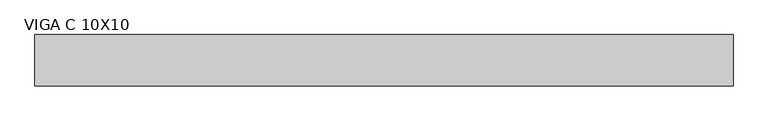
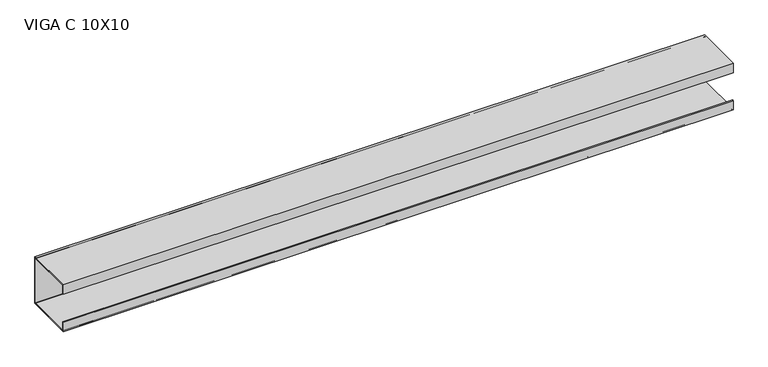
"""IFC4 building model written with IfcOpenShell, lengths in millimetres: beam geometry, VIGA PERFIL C AÇO : VIGA C 10X10."""

import ifcopenshell
import ifcopenshell.guid

model = None  # the IFC model being written
_history = None  # IfcOwnerHistory: only IFC2X3 demands one
_inside = {}  # id of a spatial element -> (the spatial element, [elements in it])
_under = {}  # id of a project, library or spatial element -> (it, [spatial elements below it])
_declared = {}  # id of a project -> (the project, [libraries it declares])
_typed = {}  # id of a type object -> (the type object, [elements of that type])
_made_of = {}  # id of a material, layer set ... -> (it, [elements and type objects made of it])


def new_model(schema):
    """Start an empty IFC model of exactly this schema.

    Asked for "IFC4X3", IfcOpenShell would pick the latest addendum, in which some entities
    have other attributes; the version numbers below select the first issue.
    IFC2X3 requires an IfcOwnerHistory on every rooted entity: one is made here for all.
    """
    global model, _history
    if schema == "IFC4X3":
        model = ifcopenshell.file(schema_version=(4, 3, 0, 0))
    else:
        model = ifcopenshell.file(schema=schema)
    _inside.clear()
    _under.clear()
    _declared.clear()
    _typed.clear()
    _made_of.clear()
    _history = None
    if model.schema == "IFC2X3":
        org = make("IfcOrganization", Name="unknown")
        user = make(
            "IfcPersonAndOrganization",
            ThePerson=make("IfcPerson", FamilyName="unknown"),
            TheOrganization=org,
        )
        app = make(
            "IfcApplication",
            ApplicationDeveloper=org,
            Version="unknown",
            ApplicationFullName="unknown",
            ApplicationIdentifier="unknown",
        )
        _history = make(
            "IfcOwnerHistory",
            OwningUser=user,
            OwningApplication=app,
            ChangeAction="ADDED",
            CreationDate=0,
        )
    return model


def make(cls, **values):
    """One entity of the class cls with the attributes given. An attribute that is None is left unset."""
    return model.create_entity(
        cls, **{name: value for name, value in values.items() if value is not None}
    )


def rooted(cls, **values):
    """An entity with a GlobalId (a new one), such as an element, a storey or a relation."""
    return make(cls, GlobalId=ifcopenshell.guid.new(), OwnerHistory=_history, **values)


def si_unit(unit_type, name, prefix=None):
    """IfcSIUnit, for example si_unit("LENGTHUNIT", "METRE", prefix="MILLI")."""
    return make("IfcSIUnit", UnitType=unit_type, Prefix=prefix, Name=name)


def assignment(units):
    """IfcUnitAssignment: the units of a project."""
    return None if units is None else make("IfcUnitAssignment", Units=units)


def point(xyz):
    """IfcCartesianPoint."""
    return None if xyz is None else make("IfcCartesianPoint", Coordinates=xyz)


def direction(xyz):
    """IfcDirection."""
    return None if xyz is None else make("IfcDirection", DirectionRatios=xyz)


def frame(location, z_axis=None, x_axis=None):
    """IfcAxis2Placement3D, a coordinate frame: its origin and axes. An axis left out is left unset."""
    return make(
        "IfcAxis2Placement3D",
        Location=point(location),
        Axis=direction(z_axis),
        RefDirection=direction(x_axis),
    )


def frame_2d(location, x_axis=None):
    """IfcAxis2Placement2D, a coordinate frame in the plane: its origin and x axis."""
    return make(
        "IfcAxis2Placement2D", Location=point(location), RefDirection=direction(x_axis)
    )


def origin():
    """The frame at (0, 0, 0) with its axes left unset."""
    return frame((0.0, 0.0, 0.0))


def place(relative_to, where):
    """IfcLocalPlacement: puts the frame where relative to a parent placement (None: the world)."""
    return make(
        "IfcLocalPlacement", PlacementRelTo=relative_to, RelativePlacement=where
    )


def context(
    kind, dimensions, precision=None, world=None, true_north=None, identifier=None
):
    """IfcGeometricRepresentationContext, for example the 3D "Model" context."""
    return make(
        "IfcGeometricRepresentationContext",
        ContextIdentifier=identifier,
        ContextType=kind,
        CoordinateSpaceDimension=dimensions,
        Precision=precision,
        WorldCoordinateSystem=world,
        TrueNorth=true_north,
    )


def project(units=None, contexts=None):
    """IfcProject with its units and contexts."""
    return rooted(
        "IfcProject",
        Name="project",
        RepresentationContexts=contexts,
        UnitsInContext=assignment(units),
    )


def spatial(cls, under=None, at=None, **own):
    """A site, building, storey or space (cls), placed at a placement, below another one or the project."""
    s = rooted(cls, ObjectPlacement=at, **own)
    if under is not None:
        _under.setdefault(under.id(), (under, []))[1].append(s)
    return s


def polyline(points):
    """IfcPolyline through the points."""
    return make("IfcPolyline", Points=[point(p) for p in points])


def circle_curve(where, radius):
    """IfcCircle in the frame where."""
    return make("IfcCircle", Position=where, Radius=radius)


def trimmed(basis, trim1, trim2, sense, master):
    """IfcTrimmedCurve: the piece of a basis curve between two trims."""
    return make(
        "IfcTrimmedCurve",
        BasisCurve=basis,
        Trim1=trim1,
        Trim2=trim2,
        SenseAgreement=sense,
        MasterRepresentation=master,
    )


def segment(curve, same_sense, transition):
    """IfcCompositeCurveSegment."""
    return make(
        "IfcCompositeCurveSegment",
        Transition=transition,
        SameSense=same_sense,
        ParentCurve=curve,
    )


def composite_curve(segments, self_intersect=None):
    """IfcCompositeCurve: segments joined end to end."""
    return make("IfcCompositeCurve", Segments=segments, SelfIntersect=self_intersect)


def outline(outer, holes=None, kind="AREA"):
    """IfcArbitraryClosedProfileDef: a profile drawn as a closed curve; with holes, ...WithVoids."""
    if holes is None:
        return make("IfcArbitraryClosedProfileDef", ProfileType=kind, OuterCurve=outer)
    return make(
        "IfcArbitraryProfileDefWithVoids",
        ProfileType=kind,
        OuterCurve=outer,
        InnerCurves=holes,
    )


def extrude(swept, where, along, depth):
    """IfcExtrudedAreaSolid: the profile swept, set in the frame where, extruded along a direction by depth."""
    return make(
        "IfcExtrudedAreaSolid",
        SweptArea=swept,
        Position=where,
        ExtrudedDirection=direction(along),
        Depth=depth,
    )


def shape(context_of_items, identifier, shape_type, items):
    """IfcShapeRepresentation: the items that make up one representation, for example the "Body"."""
    return make(
        "IfcShapeRepresentation",
        ContextOfItems=context_of_items,
        RepresentationIdentifier=identifier,
        RepresentationType=shape_type,
        Items=items,
    )


def source(mapping_origin, context_of_items, identifier, shape_type, items):
    """IfcRepresentationMap: a shape defined once, which mapped items show again and again."""
    return make(
        "IfcRepresentationMap",
        MappingOrigin=mapping_origin,
        MappedRepresentation=shape(context_of_items, identifier, shape_type, items),
    )


def transform(
    local_origin,
    x_axis=None,
    y_axis=None,
    z_axis=None,
    scale=None,
    scale2=None,
    scale3=None,
    uniform=True,
):
    """IfcCartesianTransformationOperator3D, or its non-uniform kind. x_axis, y_axis, z_axis: its Axis1, 2, 3."""
    if uniform:
        return make(
            "IfcCartesianTransformationOperator3D",
            Axis1=direction(x_axis),
            Axis2=direction(y_axis),
            LocalOrigin=point(local_origin),
            Scale=scale,
            Axis3=direction(z_axis),
        )
    return make(
        "IfcCartesianTransformationOperator3DnonUniform",
        Axis1=direction(x_axis),
        Axis2=direction(y_axis),
        LocalOrigin=point(local_origin),
        Scale=scale,
        Axis3=direction(z_axis),
        Scale2=scale2,
        Scale3=scale3,
    )


def mapped(mapping_source, mapping_target):
    """IfcMappedItem: shows the shape of a source again, moved by a transform."""
    return make(
        "IfcMappedItem", MappingSource=mapping_source, MappingTarget=mapping_target
    )


def made_of(thing, what):
    """Note that an element or type object is made of a material, layer set ...; save() writes the relation."""
    if what is not None:
        _made_of.setdefault(what.id(), (what, []))[1].append(thing)
    return thing


def element(
    cls,
    number,
    at=None,
    inside=None,
    cuts=None,
    type_object=None,
    material=None,
    context=None,
    identifier="Body",
    shape_type=None,
    held_by="IfcProductDefinitionShape",
    body=None,
    shapes=None,
    **own,
):
    """One element of the class cls, such as IfcWall. Its Tag is "e" and its number.

    at: its placement. inside: the storey or other place that contains it. cuts: it is an
    opening in that element (IfcRelVoidsElement). A single representation is given by context,
    identifier, shape_type and body (its items); several are given by shapes. held_by: the class
    of the entity that holds the representations. save() writes the other relations.
    """
    e = rooted(cls, Tag="e%d" % number, ObjectPlacement=at, **own)
    if body is not None:
        shapes = [shape(context, identifier, shape_type, body)]
    if shapes is not None:
        e.Representation = make(held_by, Representations=shapes)
    if inside is not None:
        _inside.setdefault(inside.id(), (inside, []))[1].append(e)
    if cuts is not None:
        rooted(
            "IfcRelVoidsElement", RelatingBuildingElement=cuts, RelatedOpeningElement=e
        )
    if type_object is not None:
        _typed.setdefault(type_object.id(), (type_object, []))[1].append(e)
    return made_of(e, material)


def aggregate(whole, parts):
    """IfcRelAggregates: a whole, such as a stair, and the parts it consists of."""
    return rooted("IfcRelAggregates", RelatingObject=whole, RelatedObjects=parts)


def save(model, path):
    """Write the relations noted so far, then the file.

    IfcRelAggregates (storeys below a building ...), IfcRelContainedInSpatialStructure (elements
    in a storey), IfcRelDefinesByType, IfcRelAssociatesMaterial and IfcRelDeclares: one each for
    every whole, place, type object, material and project.
    """
    for whole, parts in _under.values():
        aggregate(whole, parts)
    for where, things in _inside.values():
        rooted(
            "IfcRelContainedInSpatialStructure",
            RelatedElements=things,
            RelatingStructure=where,
        )
    for kind, things in _typed.values():
        rooted("IfcRelDefinesByType", RelatedObjects=things, RelatingType=kind)
    for what, things in _made_of.values():
        rooted("IfcRelAssociatesMaterial", RelatedObjects=things, RelatingMaterial=what)
    for by, libraries in _declared.values():
        rooted("IfcRelDeclares", RelatingContext=by, RelatedDefinitions=libraries)
    model.write(path)


def viga_c_10x10_49eaffbf(model_context):
    return source(origin(), model_context, "Body", "SweptSolid", [
        extrude(outline(polyline([(9.2, -50.0), (-90.8, -50.0), (-90.8, -30.0), (-88.9, -30.0), (-88.9, -48.1), (7.3, -48.1), (7.3, 48.1), (-88.9, 48.1), (-88.9, 30.0), (-90.8, 30.0), (-90.8, 50.0), (9.2, 50.0), (9.2, -50.0)])), frame((-707.0, 0.0, 0.0), z_axis=(1.0, 0.0, 0.0), x_axis=(0.0, 1.0, 0.0)), (0.0, 0.0, 1.0), 1358.0),
        extrude(outline(composite_curve([segment(trimmed(circle_curve(frame_2d((5.4, -46.2)), 3.8), [point((9.2, -46.2))], [point((5.4, -50.0))], False, "CARTESIAN"), True, "CONTINUOUS"), segment(polyline([(5.4, -50.0), (-87.0, -50.0)]), True, "CONTINUOUS"), segment(trimmed(circle_curve(frame_2d((-87.0, -46.2)), 3.8), [point((-87.0, -50.0))], [point((-90.8, -46.2))], False, "CARTESIAN"), True, "CONTINUOUS"), segment(polyline([(-90.8, -46.2), (-90.8, -30.0), (-88.9, -30.0), (-88.9, -46.2)]), True, "CONTINUOUS"), segment(trimmed(circle_curve(frame_2d((-87.0, -46.2)), 1.9), [point((-88.9, -46.2))], [point((-87.0, -48.1))], True, "CARTESIAN"), True, "CONTINUOUS"), segment(polyline([(-87.0, -48.1), (5.4, -48.1)]), True, "CONTINUOUS"), segment(trimmed(circle_curve(frame_2d((5.4, -46.2)), 1.9), [point((5.4, -48.1))], [point((7.3, -46.2))], True, "CARTESIAN"), True, "CONTINUOUS"), segment(polyline([(7.3, -46.2), (7.3, 46.2)]), True, "CONTINUOUS"), segment(trimmed(circle_curve(frame_2d((5.4, 46.2)), 1.9), [point((7.3, 46.2))], [point((5.4, 48.1))], True, "CARTESIAN"), True, "CONTINUOUS"), segment(polyline([(5.4, 48.1), (-87.0, 48.1)]), True, "CONTINUOUS"), segment(trimmed(circle_curve(frame_2d((-87.0, 46.2)), 1.9), [point((-87.0, 48.1))], [point((-88.9, 46.2))], True, "CARTESIAN"), True, "CONTINUOUS"), segment(polyline([(-88.9, 46.2), (-88.9, 30.0), (-90.8, 30.0), (-90.8, 46.2)]), True, "CONTINUOUS"), segment(trimmed(circle_curve(frame_2d((-87.0, 46.2)), 3.8), [point((-90.8, 46.2))], [point((-87.0, 50.0))], False, "CARTESIAN"), True, "CONTINUOUS"), segment(polyline([(-87.0, 50.0), (5.4, 50.0)]), True, "CONTINUOUS"), segment(trimmed(circle_curve(frame_2d((5.4, 46.2)), 3.8), [point((5.4, 50.0))], [point((9.2, 46.2))], False, "CARTESIAN"), True, "CONTINUOUS"), segment(polyline([(9.2, 46.2), (9.2, -46.2)]), True, "CONTINUOUS")], self_intersect=False)), frame((-707.0, 0.0, 0.0), z_axis=(1.0, 0.0, 0.0), x_axis=(0.0, 1.0, 0.0)), (0.0, 0.0, 1.0), 1358.0),
    ])


if __name__ == "__main__":
    model = new_model("IFC4")
    model_context = context("Model", 3, world=origin())
    ifc_project = project(units=[si_unit("LENGTHUNIT", "METRE", prefix="MILLI")], contexts=[model_context])
    site = spatial("IfcSite", under=ifc_project)
    building = spatial("IfcBuilding", under=site)
    placement = place(None, origin())
    viga_c_10x10_shape = viga_c_10x10_49eaffbf(model_context)
    element("IfcBeam", 1, ObjectType="VIGA PERFIL C AÇO : VIGA C 10X10", at=placement, inside=building, context=model_context, shape_type="MappedRepresentation", body=[
        mapped(viga_c_10x10_shape, transform((0.0, 0.0, 0.0), x_axis=(1.0, 0.0, 0.0), y_axis=(0.0, 1.0, 0.0), z_axis=(0.0, 0.0, 1.0))),
    ])
    save(model, "model.ifc")
